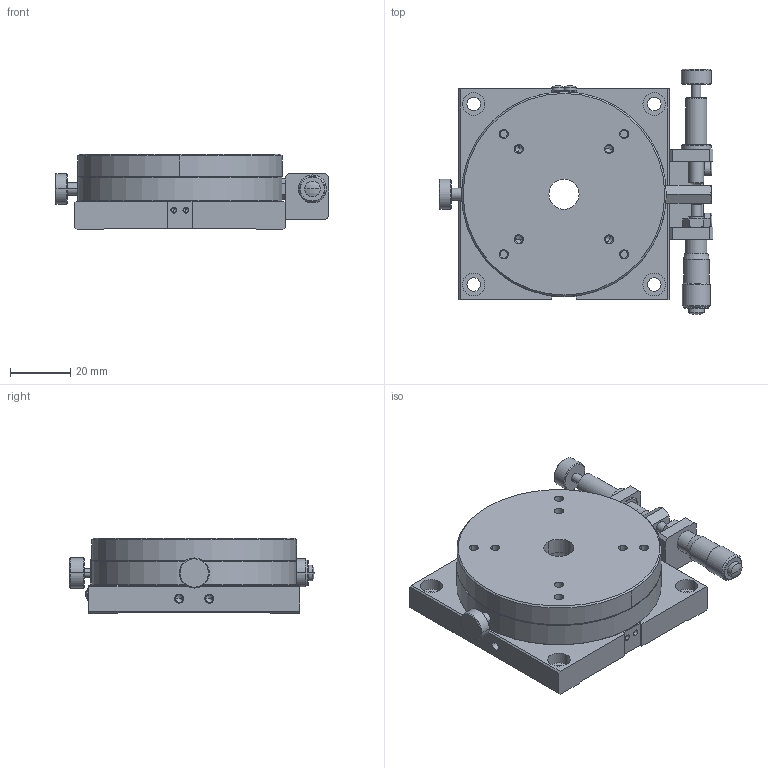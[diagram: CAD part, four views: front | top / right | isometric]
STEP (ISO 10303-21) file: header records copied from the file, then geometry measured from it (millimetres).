
FILE_DESCRIPTION (( 'STEP AP214' ), '1' );
FILE_NAME ('RM07A-C1-R.STEP', '2007-08-01T03:55:06', ( ' ' ), ( ' ' ), 'SwSTEP 2.0', 'SolidWorks 2006052', '' );
FILE_SCHEMA (( 'AUTOMOTIVE_DESIGN' ));
Length unit declared in the file: millimetre
Products named in the file (8): 003460-1010(3D)-1; 003420-1030(3D)-1; 000211-1130(3D)-5; 003460-1020(3D)-1; MICROMETERHEAD(MHT4-6.5)spindle-5; CRBH258AUUT1-1; 000211-1080(3D)-5; RM07A-C1-R
Assembly tree (7 placements, depth 2):
  RM07A-C1-R
    003460-1010(3D)-1
    000211-1080(3D)-5
    000211-1130(3D)-5
    CRBH258AUUT1-1
    003420-1030(3D)-1
    003460-1020(3D)-1
    MICROMETERHEAD(MHT4-6.5)spindle-5
Bounding box: 91 x 81.49 x 25 mm (x, y, z)
Volume: 98443.8 mm3; surface area: 47922.7 mm2
Topology: 7 solids, 32 shells, 919 faces, 2022 edges, 1172 vertices
Faces by surface type: plane 343, cylinder 317, cone 193, torus 52, sphere 14
Entity records: 25197 total; most frequent: DIRECTION 4725, CARTESIAN_POINT 4401, ORIENTED_EDGE 3916, EDGE_CURVE 1958, AXIS2_PLACEMENT_3D 1878, VERTEX_POINT 1172, EDGE_LOOP 1060, VECTOR 969
